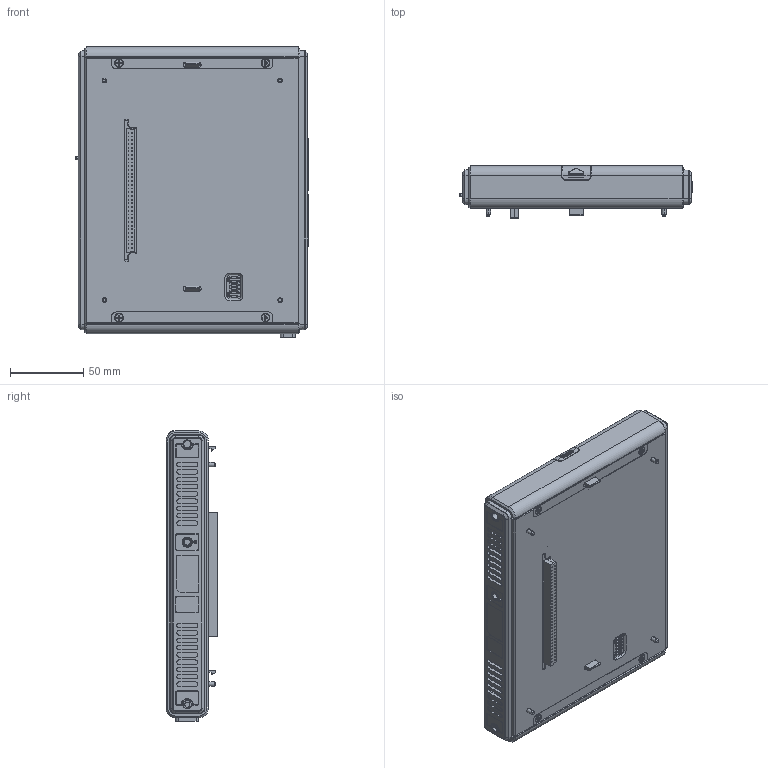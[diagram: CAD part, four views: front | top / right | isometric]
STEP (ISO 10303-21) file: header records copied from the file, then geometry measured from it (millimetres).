
FILE_DESCRIPTION((''),'2;1');
FILE_NAME('0-C_MODULE2_ASM','2020-05-15T10:04:58',('wanggangqiang'),(''),'CREO PARAMETRIC BY PTC INC, 2017260','CREO PARAMETRIC BY PTC INC, 2017260','');
FILE_SCHEMA(('CONFIG_CONTROL_DESIGN'));
Products named in the file (1): 0-C_MODULE2_ASM
Bounding box: 159.1 x 35.5 x 198.74 mm (x, y, z)
Volume: 837580.5 mm3; surface area: 155349.7 mm2
Topology: 1 solids, 73 shells, 3842 faces, 10136 edges, 6687 vertices
Faces by surface type: plane 3013, cylinder 545, cone 140, extrusion 87, torus 39, bspline 14, sphere 4
Entity records: 122269 total; most frequent: CARTESIAN_POINT 27013, ORIENTED_EDGE 20244, DIRECTION 18366, EDGE_CURVE 10122, VECTOR 8334, LINE 8247, VERTEX_POINT 6687, AXIS2_PLACEMENT_3D 5016
